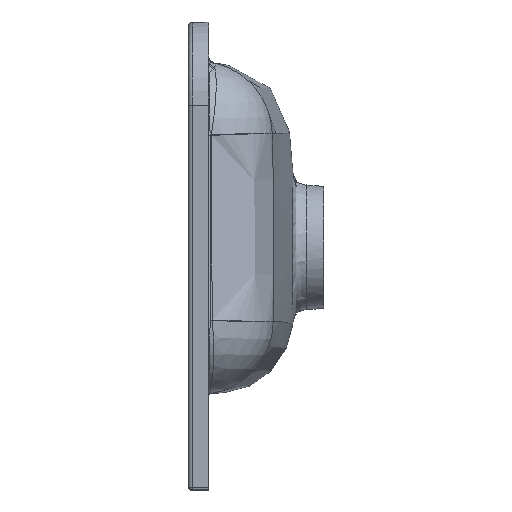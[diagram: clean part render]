
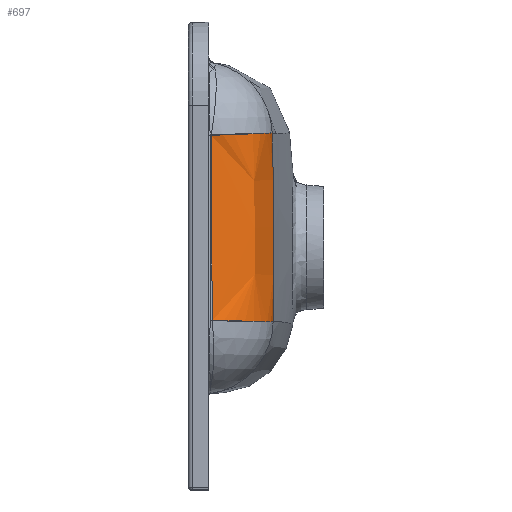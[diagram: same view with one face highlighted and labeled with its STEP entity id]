
A CAD part, left-side view. The second image highlights one B-rep face of the part: STEP entity #697.
In plain terms, the highlighted free-form (B-spline) face has degree [3, 2] with [10, 3] control points.
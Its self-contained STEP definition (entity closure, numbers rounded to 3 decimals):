
#162 = AXIS2_PLACEMENT_3D ( 'NONE', #5868, #2042, #1282 ) ;
#564 = CARTESIAN_POINT ( 'NONE',  ( -342.206, 12.633, -11.296 ) ) ;
#591 = DIRECTION ( 'NONE',  ( -0.006, 0.032, 0.999 ) ) ;
#614 = CARTESIAN_POINT ( 'NONE',  ( -351.998, 68.164, 49.644 ) ) ;
#672 = CARTESIAN_POINT ( 'NONE',  ( -286.339, 8.726, 81.762 ) ) ;
#697 = ADVANCED_FACE ( 'NONE', ( #3168 ), #8239, .T. ) ;
#768 = CARTESIAN_POINT ( 'NONE',  ( -286.371, 8.235, -57.904 ) ) ;
#779 = CARTESIAN_POINT ( 'NONE',  ( -342.347, 13.435, 81.411 ) ) ;
#883 = CARTESIAN_POINT ( 'NONE',  ( -286.388, 8., -42.391 ) ) ;
#921 = EDGE_CURVE ( 'NONE', #9610, #8235, #9906, .T. ) ;
#949 = EDGE_CURVE ( 'NONE', #10795, #8792, #4211, .T. ) ;
#1282 = DIRECTION ( 'NONE',  ( 0., -1., -0.022 ) ) ;
#1333 = CARTESIAN_POINT ( 'NONE',  ( -286.293, 9.625, 112.703 ) ) ;
#1507 = CARTESIAN_POINT ( 'NONE',  ( -286.395, 7.916, 35.24 ) ) ;
#1550 = CARTESIAN_POINT ( 'NONE',  ( -352.105, 68.772, 80.009 ) ) ;
#1613 = CARTESIAN_POINT ( 'NONE',  ( -286.408, 7.748, -11.345 ) ) ;
#2042 = DIRECTION ( 'NONE',  ( 0.004, -0.022, 1. ) ) ;
#2229 = CARTESIAN_POINT ( 'NONE',  ( -342.48, 14.184, 112.233 ) ) ;
#2287 = CARTESIAN_POINT ( 'NONE',  ( -286.349, 8.57, -73.414 ) ) ;
#2338 = CARTESIAN_POINT ( 'NONE',  ( -342.242, 12.838, -42.207 ) ) ;
#2449 = CARTESIAN_POINT ( 'NONE',  ( -352.018, 68.281, -56.648 ) ) ;
#3103 = CARTESIAN_POINT ( 'NONE',  ( -286.293, 9.625, 112.703 ) ) ;
#3114 = CARTESIAN_POINT ( 'NONE',  ( -351.932, 67.794, -11.091 ) ) ;
#3168 = FACE_OUTER_BOUND ( 'NONE', #6004, .T. ) ;
#3224 = CARTESIAN_POINT ( 'NONE',  ( -351.929, 67.777, 4.093 ) ) ;
#3270 = CARTESIAN_POINT ( 'NONE',  ( -352.176, 69.178, 95.191 ) ) ;
#3322 = CARTESIAN_POINT ( 'NONE',  ( -286.293, 9.625, 112.703 ) ) ;
#4048 = CARTESIAN_POINT ( 'NONE',  ( -286.409, 7.731, 4.146 ) ) ;
#4058 = CARTESIAN_POINT ( 'NONE',  ( -286.315, 9.132, 97.245 ) ) ;
#4107 = CARTESIAN_POINT ( 'NONE',  ( -351.929, 67.777, 4.093 ) ) ;
#4187 = EDGE_CURVE ( 'NONE', #8792, #8235, #10853, .T. ) ;
#4211 = CIRCLE ( 'NONE', #10625, 73. ) ;
#4500 = CARTESIAN_POINT ( 'NONE',  ( -352.077, 68.616, -71.834 ) ) ;
#4653 = CARTESIAN_POINT ( 'NONE',  ( -280.372, 82.348, 110.372 ) ) ;
#4681 = ORIENTED_EDGE ( 'NONE', *, *, #4690, .F. ) ;
#4690 = EDGE_CURVE ( 'NONE', #9610, #10795, #7248, .T. ) ;
#4773 = CARTESIAN_POINT ( 'NONE',  ( -342.407, 13.771, 96.837 ) ) ;
#4865 = CARTESIAN_POINT ( 'NONE',  ( -286.379, 8.117, 50.675 ) ) ;
#4875 = CARTESIAN_POINT ( 'NONE',  ( -342.23, 12.77, 35.082 ) ) ;
#4983 = CARTESIAN_POINT ( 'NONE',  ( -351.977, 68.046, -41.462 ) ) ;
#5868 = CARTESIAN_POINT ( 'NONE',  ( -280.186, 81.292, -71.834 ) ) ;
#6004 = EDGE_LOOP ( 'NONE', ( #6776, #10904, #8341, #4681 ) ) ;
#6267 = CARTESIAN_POINT ( 'NONE',  ( -352.018, 68.281, -56.648 ) ) ;
#6313 = DIRECTION ( 'NONE',  ( 0., -0.999, 0.032 ) ) ;
#6476 = CARTESIAN_POINT ( 'NONE',  ( -286.339, 8.725, 81.691 ) ) ;
#6489 = CARTESIAN_POINT ( 'NONE',  ( -286.379, 8.118, 50.76 ) ) ;
#6547 = CARTESIAN_POINT ( 'NONE',  ( -286.388, 8., -42.397 ) ) ;
#6603 = CARTESIAN_POINT ( 'NONE',  ( -352.263, 69.671, 110.372 ) ) ;
#6776 = ORIENTED_EDGE ( 'NONE', *, *, #921, .T. ) ;
#7205 = CARTESIAN_POINT ( 'NONE',  ( -352.263, 69.671, 110.372 ) ) ;
#7248 = B_SPLINE_CURVE_WITH_KNOTS ( 'NONE', 3,
 ( #4500, #6267, #9662, #7318, #4107, #10049, #614, #1550, #3270, #10724 ),
 .UNSPECIFIED., .F., .F.,
 ( 4, 2, 2, 2, 4 ),
 ( 0., 0.046, 0.091, 0.137, 0.182 ),
 .UNSPECIFIED. ) ;
#7318 = CARTESIAN_POINT ( 'NONE',  ( -351.932, 67.794, -11.091 ) ) ;
#7427 = CARTESIAN_POINT ( 'NONE',  ( -286.408, 7.748, -11.366 ) ) ;
#7438 = CARTESIAN_POINT ( 'NONE',  ( -286.409, 7.731, 4.187 ) ) ;
#7482 = CARTESIAN_POINT ( 'NONE',  ( -286.395, 7.915, 35.166 ) ) ;
#7539 = CARTESIAN_POINT ( 'NONE',  ( -286.349, 8.57, -73.414 ) ) ;
#8235 = VERTEX_POINT ( 'NONE', #10421 ) ;
#8239 =( BOUNDED_SURFACE ( )  B_SPLINE_SURFACE ( 3, 2, ( 
 ( #2287, #9207, #10055 ),
 ( #10841, #9055, #2449 ),
 ( #6547, #2338, #4983 ),
 ( #1613, #564, #3114 ),
 ( #7438, #9949, #3224 ),
 ( #1507, #4875, #8270 ),
 ( #6489, #8372, #9845 ),
 ( #672, #779, #9892 ),
 ( #4058, #4773, #10952 ),
 ( #3322, #2229, #6603 ) ),
 .UNSPECIFIED., .F., .F., .T. ) 
 B_SPLINE_SURFACE_WITH_KNOTS ( ( 4, 2, 2, 2, 4 ),
 ( 3, 3 ),
 ( 0., 0.046, 0.091, 0.137, 0.182 ),
 ( 0., 1. ),
 .UNSPECIFIED. ) 
 GEOMETRIC_REPRESENTATION_ITEM ( )  RATIONAL_B_SPLINE_SURFACE ( (
 ( 1., 0.793, 1.),
 ( 1., 0.793, 1.),
 ( 1., 0.793, 1.),
 ( 1., 0.793, 1.),
 ( 1., 0.793, 1.),
 ( 1., 0.793, 1.),
 ( 1., 0.793, 1.),
 ( 1., 0.792, 1.),
 ( 1., 0.792, 1.),
 ( 1., 0.791, 1.) ) ) 
 REPRESENTATION_ITEM ( '' )  SURFACE ( )  );
#8270 = CARTESIAN_POINT ( 'NONE',  ( -351.962, 67.962, 34.461 ) ) ;
#8341 = ORIENTED_EDGE ( 'NONE', *, *, #949, .F. ) ;
#8372 = CARTESIAN_POINT ( 'NONE',  ( -342.259, 12.935, 50.537 ) ) ;
#8792 = VERTEX_POINT ( 'NONE', #1333 ) ;
#9055 = CARTESIAN_POINT ( 'NONE',  ( -342.276, 13.03, -57.662 ) ) ;
#9094 = CARTESIAN_POINT ( 'NONE',  ( -286.315, 9.13, 97.197 ) ) ;
#9207 = CARTESIAN_POINT ( 'NONE',  ( -342.325, 13.306, -73.092 ) ) ;
#9526 = CARTESIAN_POINT ( 'NONE',  ( -352.077, 68.616, -71.834 ) ) ;
#9610 = VERTEX_POINT ( 'NONE', #9526 ) ;
#9662 = CARTESIAN_POINT ( 'NONE',  ( -351.977, 68.046, -41.462 ) ) ;
#9845 = CARTESIAN_POINT ( 'NONE',  ( -351.998, 68.164, 49.644 ) ) ;
#9892 = CARTESIAN_POINT ( 'NONE',  ( -352.105, 68.772, 80.009 ) ) ;
#9906 = CIRCLE ( 'NONE', #162, 73. ) ;
#9949 = CARTESIAN_POINT ( 'NONE',  ( -342.204, 12.619, 4.17 ) ) ;
#10049 = CARTESIAN_POINT ( 'NONE',  ( -351.962, 67.962, 34.461 ) ) ;
#10055 = CARTESIAN_POINT ( 'NONE',  ( -352.077, 68.616, -71.834 ) ) ;
#10421 = CARTESIAN_POINT ( 'NONE',  ( -286.349, 8.57, -73.414 ) ) ;
#10625 = AXIS2_PLACEMENT_3D ( 'NONE', #4653, #591, #6313 ) ;
#10724 = CARTESIAN_POINT ( 'NONE',  ( -352.263, 69.671, 110.372 ) ) ;
#10795 = VERTEX_POINT ( 'NONE', #7205 ) ;
#10841 = CARTESIAN_POINT ( 'NONE',  ( -286.371, 8.235, -57.915 ) ) ;
#10853 = B_SPLINE_CURVE_WITH_KNOTS ( 'NONE', 3,
 ( #3103, #9094, #6476, #4865, #7482, #4048, #7427, #883, #768, #7539 ),
 .UNSPECIFIED., .F., .F.,
 ( 4, 2, 2, 2, 4 ),
 ( 0., 0.047, 0.093, 0.14, 0.186 ),
 .UNSPECIFIED. ) ;
#10904 = ORIENTED_EDGE ( 'NONE', *, *, #4187, .F. ) ;
#10952 = CARTESIAN_POINT ( 'NONE',  ( -352.176, 69.178, 95.191 ) ) ;
